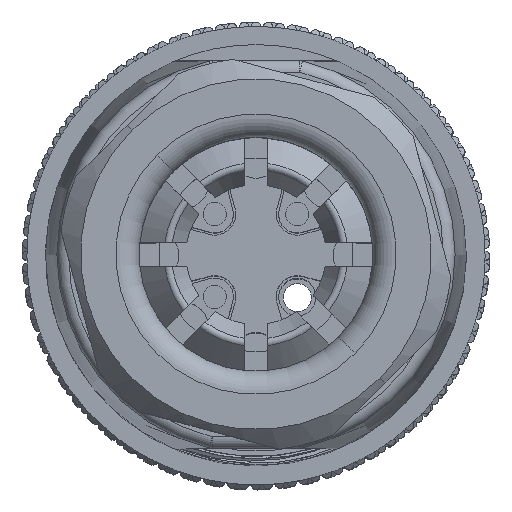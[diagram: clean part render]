
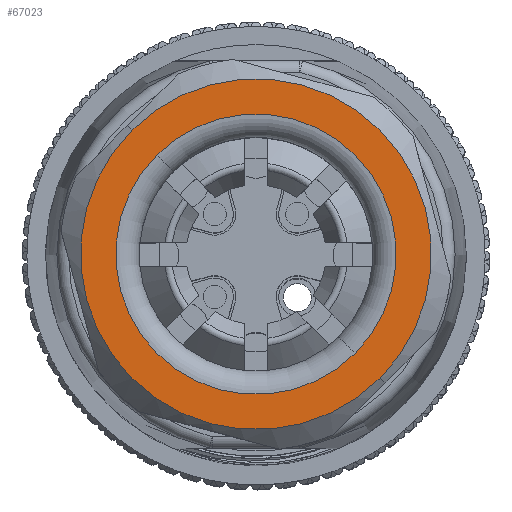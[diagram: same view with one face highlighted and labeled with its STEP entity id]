
A CAD part, top view. The second image highlights one B-rep face of the part: STEP entity #67023.
In plain terms, the highlighted planar face has unit normal (0, 0, 1).
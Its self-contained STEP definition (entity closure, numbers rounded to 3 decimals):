
#29456=CARTESIAN_POINT('',(0.,0.,
39.375));
#29457=DIRECTION('',(0.,0.,-1.));
#29458=DIRECTION('',(0.707,-0.707,0.));
#29459=AXIS2_PLACEMENT_3D('',#29456,#29457,#29458);
#29461=CARTESIAN_POINT('',(0.,0.,
39.375));
#29462=DIRECTION('',(0.,0.,-1.));
#29463=DIRECTION('',(-0.707,0.707,0.));
#29464=AXIS2_PLACEMENT_3D('',#29461,#29462,#29463);
#29466=CARTESIAN_POINT('',(0.,0.,
39.375));
#29467=DIRECTION('',(0.,0.,1.));
#29468=DIRECTION('',(-0.707,0.707,0.));
#29469=AXIS2_PLACEMENT_3D('',#29466,#29467,#29468);
#29471=CARTESIAN_POINT('',(0.,0.,
39.375));
#29472=DIRECTION('',(0.,0.,1.));
#29473=DIRECTION('',(0.707,-0.707,0.));
#29474=AXIS2_PLACEMENT_3D('',#29471,#29472,#29473);
#36398=CARTESIAN_POINT('',(4.243,-4.243,
39.375));
#36399=CARTESIAN_POINT('',(-4.243,4.243,
39.375));
#36400=VERTEX_POINT('',#36398);
#36401=VERTEX_POINT('',#36399);
#36402=CARTESIAN_POINT('',(5.308,-5.308,
39.375));
#36404=VERTEX_POINT('',#36402);
#36406=CARTESIAN_POINT('',(-5.308,5.308,
39.375));
#36408=VERTEX_POINT('',#36406);
#67007=CARTESIAN_POINT('',(0.,0.,
39.375));
#67008=DIRECTION('',(0.,0.,-1.));
#67009=DIRECTION('',(0.707,-0.707,0.));
#67010=AXIS2_PLACEMENT_3D('',#67007,#67008,#67009);
#67011=PLANE('',#67010);
#67013=ORIENTED_EDGE('',*,*,#67012,.F.);
#67014=ORIENTED_EDGE('',*,*,#66986,.F.);
#67015=EDGE_LOOP('',(#67013,#67014));
#67016=FACE_OUTER_BOUND('',#67015,.F.);
#67018=ORIENTED_EDGE('',*,*,#67017,.F.);
#67020=ORIENTED_EDGE('',*,*,#67019,.F.);
#67021=EDGE_LOOP('',(#67018,#67020));
#67022=FACE_BOUND('',#67021,.F.);
#67023=ADVANCED_FACE('',(#67016,#67022),#67011,.F.);
#29460=CIRCLE('',#29459,6.);
#29465=CIRCLE('',#29464,6.);
#29470=CIRCLE('',#29469,7.507);
#29475=CIRCLE('',#29474,7.507);
#66986=EDGE_CURVE('',#36404,#36408,#29475,.T.);
#67012=EDGE_CURVE('',#36408,#36404,#29470,.T.);
#67017=EDGE_CURVE('',#36400,#36401,#29460,.T.);
#67019=EDGE_CURVE('',#36401,#36400,#29465,.T.);
